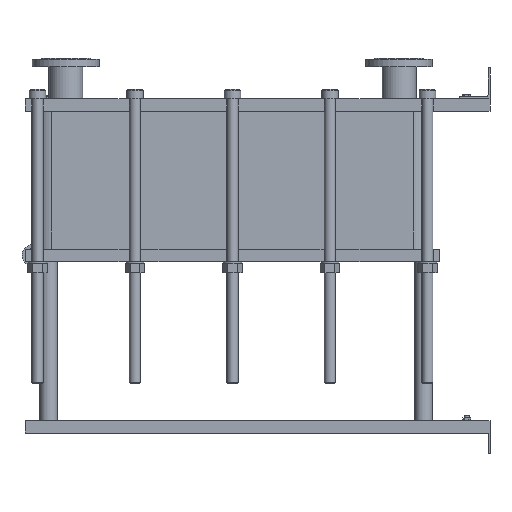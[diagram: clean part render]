
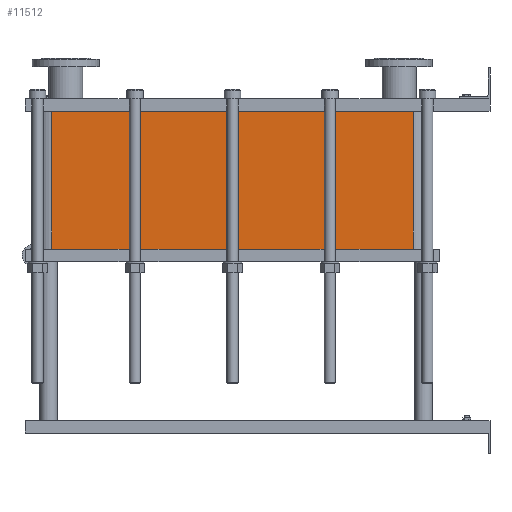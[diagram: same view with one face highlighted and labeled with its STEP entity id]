
A CAD part, left-side view. The second image highlights one B-rep face of the part: STEP entity #11512.
In plain terms, the highlighted planar face has unit normal (-1, 0, 0).
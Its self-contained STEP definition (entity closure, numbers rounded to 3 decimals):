
#1129=LINE('',#23232,#2102);
#1130=LINE('',#23236,#2103);
#1131=LINE('',#23238,#2104);
#1132=LINE('',#23239,#2105);
#2102=VECTOR('',#15887,10.);
#2103=VECTOR('',#15892,10.);
#2104=VECTOR('',#15893,10.);
#2105=VECTOR('',#15894,10.);
#3267=FACE_OUTER_BOUND('',#4093,.T.);
#4093=EDGE_LOOP('',(#10103,#10104,#10105,#10106));
#5642=VERTEX_POINT('',#23229);
#5643=VERTEX_POINT('',#23231);
#5644=VERTEX_POINT('',#23235);
#5645=VERTEX_POINT('',#23237);
#7159=EDGE_CURVE('',#5643,#5642,#1129,.T.);
#7161=EDGE_CURVE('',#5642,#5644,#1130,.T.);
#7162=EDGE_CURVE('',#5645,#5644,#1131,.T.);
#7163=EDGE_CURVE('',#5645,#5643,#1132,.T.);
#10103=ORIENTED_EDGE('',*,*,#7161,.T.);
#10104=ORIENTED_EDGE('',*,*,#7162,.F.);
#10105=ORIENTED_EDGE('',*,*,#7163,.T.);
#10106=ORIENTED_EDGE('',*,*,#7159,.T.);
#10857=PLANE('',#12751);
#11512=ADVANCED_FACE('',(#3267),#10857,.T.);
#12751=AXIS2_PLACEMENT_3D('',#23234,#15890,#15891);
#15887=DIRECTION('',(0.,0.,-1.));
#15890=DIRECTION('center_axis',(-1.,0.,0.));
#15891=DIRECTION('ref_axis',(0.,1.,0.));
#15892=DIRECTION('',(0.,-1.,0.));
#15893=DIRECTION('',(0.,0.,-1.));
#15894=DIRECTION('',(0.,1.,0.));
#23229=CARTESIAN_POINT('',(-200.,1414.,-445.05));
#23231=CARTESIAN_POINT('',(-200.,1414.,0.));
#23232=CARTESIAN_POINT('',(-200.,1414.,0.));
#23234=CARTESIAN_POINT('Origin',(-200.,248.,0.));
#23235=CARTESIAN_POINT('',(-200.,248.,-445.05));
#23236=CARTESIAN_POINT('',(-200.,539.5,-445.05));
#23237=CARTESIAN_POINT('',(-200.,248.,0.));
#23238=CARTESIAN_POINT('',(-200.,248.,0.));
#23239=CARTESIAN_POINT('',(-200.,248.,0.));
